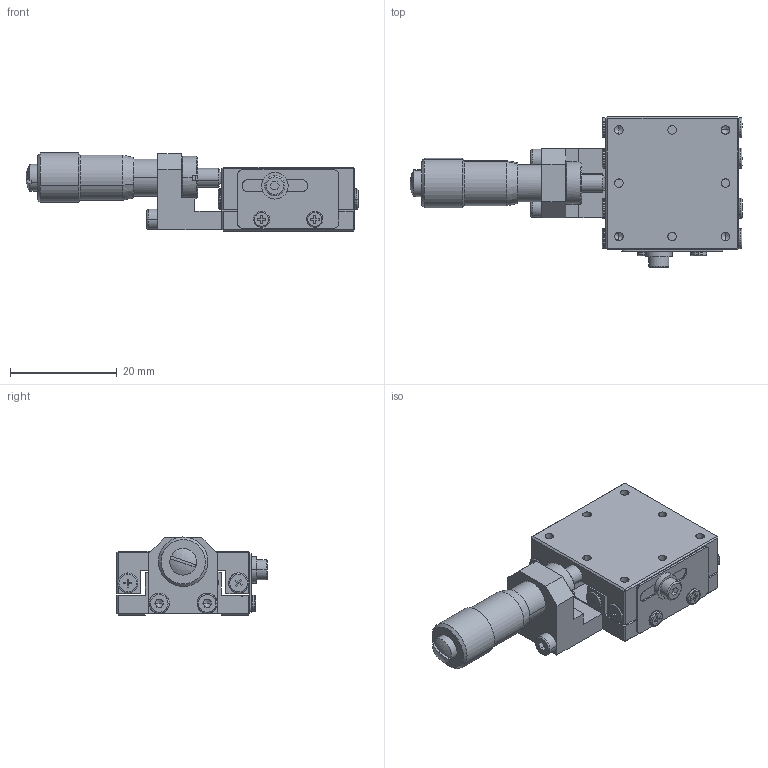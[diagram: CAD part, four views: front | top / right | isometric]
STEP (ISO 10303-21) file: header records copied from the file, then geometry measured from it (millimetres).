
FILE_DESCRIPTION (( 'STEP AP203' ), '1' );
FILE_NAME ('MBX25-C.STEP', '2019-05-02T02:02:49', ( 'User' ), ( 'No' ), 'SwSTEP 2.0', 'SolidWorks 2012', '' );
FILE_SCHEMA (( 'CONFIG_CONTROL_DESIGN' ));
Length unit declared in the file: millimetre
Products named in the file (4): MBX25-C; MT6.5-2-1; LB25C-2; LB25C-1
Assembly tree (3 placements, depth 2):
  MBX25-C
    LB25C-1
    LB25C-2
    MT6.5-2-1
Bounding box: 62.28 x 28.3 x 14.65 mm (x, y, z)
Volume: 8842.7 mm3; surface area: 7967.6 mm2
Topology: 9 solids, 25 shells, 579 faces, 1469 edges, 965 vertices
Faces by surface type: plane 313, cylinder 145, cone 74, torus 24, bspline 20, sphere 3
Entity records: 24220 total; most frequent: CARTESIAN_POINT 10486, ORIENTED_EDGE 2906, DIRECTION 2445, EDGE_CURVE 1453, VERTEX_POINT 965, AXIS2_PLACEMENT_3D 815, VECTOR 815, LINE 815
